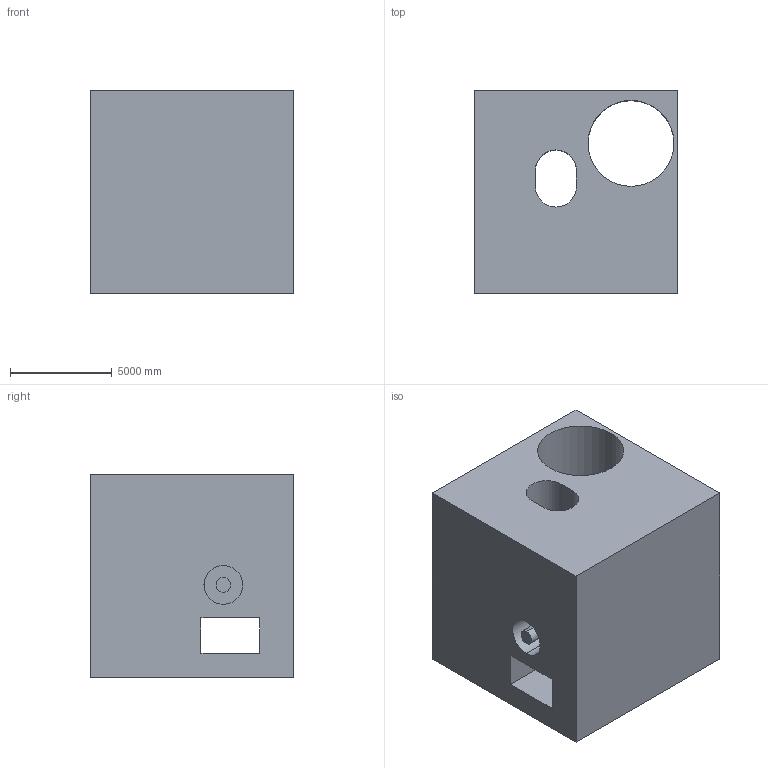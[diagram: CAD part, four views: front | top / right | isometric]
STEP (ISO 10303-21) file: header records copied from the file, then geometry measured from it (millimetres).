
FILE_DESCRIPTION (( 'STEP AP203' ), '1' );
FILE_NAME ('34.STEP', '2022-09-02T15:18:53', ( 'user' ), ( '' ), 'SwSTEP 2.0', 'SolidWorks 2021', '' );
FILE_SCHEMA (( 'CONFIG_CONTROL_DESIGN' ));
Length unit declared in the file: centimetre
Products named in the file (1): 34
Bounding box: 10000 x 10000 x 10000 mm (x, y, z)
Volume: 742018642105.7 mm3; surface area: 915667860.4 mm2
Topology: 1 solids, 1 shells, 23 faces, 62 edges, 42 vertices
Faces by surface type: plane 15, cylinder 8
Entity records: 1059 total; most frequent: CARTESIAN_POINT 364, DIRECTION 126, ORIENTED_EDGE 124, EDGE_CURVE 62, LINE 42, AXIS2_PLACEMENT_3D 42, VERTEX_POINT 42, VECTOR 42
